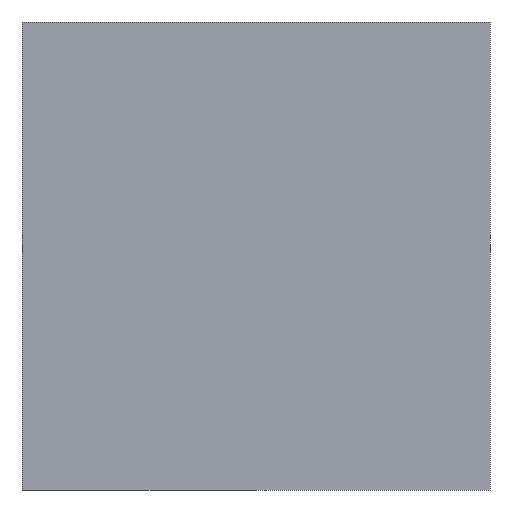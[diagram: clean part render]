
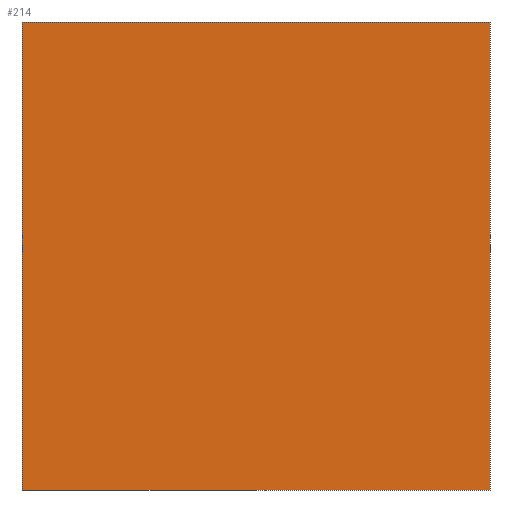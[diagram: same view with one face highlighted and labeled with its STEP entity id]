
A CAD part, left-side view. The second image highlights one B-rep face of the part: STEP entity #214.
In plain terms, the highlighted planar face has unit normal (-1, 0, 0).
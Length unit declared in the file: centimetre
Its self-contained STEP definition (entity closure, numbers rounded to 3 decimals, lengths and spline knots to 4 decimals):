
#15 = EDGE_CURVE ( 'NONE', #322, #358, #528, .T. ) ;
#33 = VERTEX_POINT ( 'NONE', #38 ) ;
#38 = CARTESIAN_POINT ( 'NONE',  ( 0., 1000., 0. ) ) ;
#47 = CARTESIAN_POINT ( 'NONE',  ( 0., 0., 1000. ) ) ;
#52 = FACE_OUTER_BOUND ( 'NONE', #258, .T. ) ;
#53 = ORIENTED_EDGE ( 'NONE', *, *, #254, .T. ) ;
#78 = DIRECTION ( 'NONE',  ( 0., 0., -1. ) ) ;
#89 = DIRECTION ( 'NONE',  ( 1., 0., 0. ) ) ;
#112 = CARTESIAN_POINT ( 'NONE',  ( 0., 1000., 1000. ) ) ;
#129 = VECTOR ( 'NONE', #377, 100. ) ;
#136 = DIRECTION ( 'NONE',  ( 0., -1., 0. ) ) ;
#143 = AXIS2_PLACEMENT_3D ( 'NONE', #265, #89, #451 ) ;
#168 = LINE ( 'NONE', #535, #369 ) ;
#195 = CARTESIAN_POINT ( 'NONE',  ( 0., 1000., 1000. ) ) ;
#214 = ADVANCED_FACE ( 'NONE', ( #52 ), #355, .F. ) ;
#254 = EDGE_CURVE ( 'NONE', #33, #358, #168, .T. ) ;
#258 = EDGE_LOOP ( 'NONE', ( #53, #320, #275, #354 ) ) ;
#265 = CARTESIAN_POINT ( 'NONE',  ( 0., 1000., 1000. ) ) ;
#274 = CARTESIAN_POINT ( 'NONE',  ( 0., 0., 1000. ) ) ;
#275 = ORIENTED_EDGE ( 'NONE', *, *, #429, .F. ) ;
#306 = VERTEX_POINT ( 'NONE', #416 ) ;
#320 = ORIENTED_EDGE ( 'NONE', *, *, #15, .F. ) ;
#322 = VERTEX_POINT ( 'NONE', #47 ) ;
#354 = ORIENTED_EDGE ( 'NONE', *, *, #434, .T. ) ;
#355 = PLANE ( 'NONE',  #143 ) ;
#358 = VERTEX_POINT ( 'NONE', #443 ) ;
#369 = VECTOR ( 'NONE', #136, 100. ) ;
#377 = DIRECTION ( 'NONE',  ( 0., -1., 0. ) ) ;
#388 = LINE ( 'NONE', #112, #523 ) ;
#416 = CARTESIAN_POINT ( 'NONE',  ( 0., 1000., 1000. ) ) ;
#429 = EDGE_CURVE ( 'NONE', #306, #322, #579, .T. ) ;
#434 = EDGE_CURVE ( 'NONE', #306, #33, #388, .T. ) ;
#443 = CARTESIAN_POINT ( 'NONE',  ( 0., 0., 0. ) ) ;
#451 = DIRECTION ( 'NONE',  ( 0., 0., -1. ) ) ;
#492 = VECTOR ( 'NONE', #576, 100. ) ;
#523 = VECTOR ( 'NONE', #78, 100. ) ;
#528 = LINE ( 'NONE', #274, #492 ) ;
#535 = CARTESIAN_POINT ( 'NONE',  ( 0., 1000., 0. ) ) ;
#576 = DIRECTION ( 'NONE',  ( 0., 0., -1. ) ) ;
#579 = LINE ( 'NONE', #195, #129 ) ;
